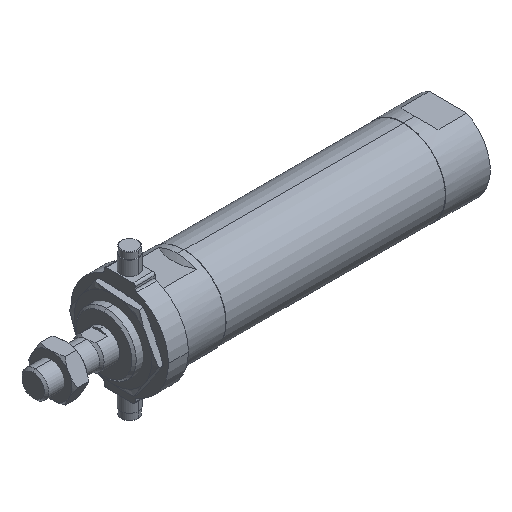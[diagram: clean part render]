
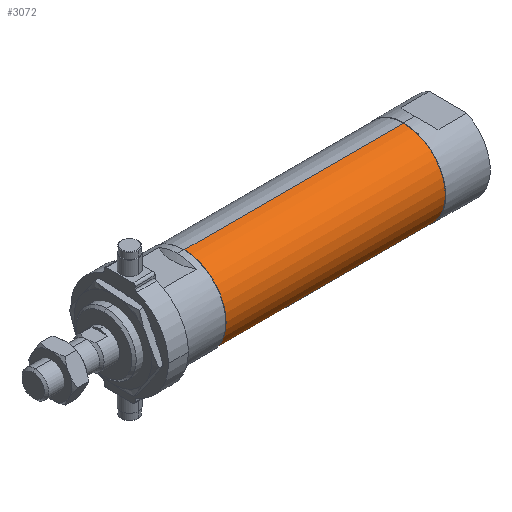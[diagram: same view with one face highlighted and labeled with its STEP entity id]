
A CAD part, isometric view. The second image highlights one B-rep face of the part: STEP entity #3072.
In plain terms, the highlighted cylindrical face has radius 18.8 mm (diameter 37.6 mm), a partial arc.
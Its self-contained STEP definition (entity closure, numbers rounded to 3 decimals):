
#87 = DIRECTION ( 'NONE',  ( 0., 0., 1. ) ) ;
#217 = CARTESIAN_POINT ( 'NONE',  ( -1.784, 0., -18.8 ) ) ;
#281 = DIRECTION ( 'NONE',  ( -1., 0., 0. ) ) ;
#348 = ORIENTED_EDGE ( 'NONE', *, *, #2057, .F. ) ;
#374 = LINE ( 'NONE', #217, #1056 ) ;
#434 = VECTOR ( 'NONE', #3372, 1000. ) ;
#439 = VERTEX_POINT ( 'NONE', #2227 ) ;
#607 = VERTEX_POINT ( 'NONE', #762 ) ;
#657 = LINE ( 'NONE', #1044, #434 ) ;
#676 = DIRECTION ( 'NONE',  ( 0., 0., 1. ) ) ;
#758 = CYLINDRICAL_SURFACE ( 'NONE', #2412, 18.8 ) ;
#762 = CARTESIAN_POINT ( 'NONE',  ( 68., 0., -18.8 ) ) ;
#768 = CARTESIAN_POINT ( 'NONE',  ( 167., 0., 18.8 ) ) ;
#1040 = VERTEX_POINT ( 'NONE', #3490 ) ;
#1044 = CARTESIAN_POINT ( 'NONE',  ( -1.784, 0., 18.8 ) ) ;
#1056 = VECTOR ( 'NONE', #1306, 1000. ) ;
#1153 = CARTESIAN_POINT ( 'NONE',  ( -1.784, 0., 0. ) ) ;
#1306 = DIRECTION ( 'NONE',  ( -1., 0., 0. ) ) ;
#1413 = EDGE_CURVE ( 'NONE', #439, #3079, #3151, .T. ) ;
#1638 = EDGE_CURVE ( 'NONE', #3079, #1040, #657, .T. ) ;
#1654 = ORIENTED_EDGE ( 'NONE', *, *, #1413, .T. ) ;
#1926 = FACE_OUTER_BOUND ( 'NONE', #4094, .T. ) ;
#1955 = DIRECTION ( 'NONE',  ( -1., 0., 0. ) ) ;
#2057 = EDGE_CURVE ( 'NONE', #439, #607, #374, .T. ) ;
#2227 = CARTESIAN_POINT ( 'NONE',  ( 167., 0., -18.8 ) ) ;
#2412 = AXIS2_PLACEMENT_3D ( 'NONE', #1153, #3913, #87 ) ;
#2949 = ORIENTED_EDGE ( 'NONE', *, *, #3857, .F. ) ;
#2956 = AXIS2_PLACEMENT_3D ( 'NONE', #4012, #1955, #3652 ) ;
#3072 = ADVANCED_FACE ( 'NONE', ( #1926 ), #758, .T. ) ;
#3079 = VERTEX_POINT ( 'NONE', #768 ) ;
#3151 = CIRCLE ( 'NONE', #2956, 18.8 ) ;
#3191 = CIRCLE ( 'NONE', #4182, 18.8 ) ;
#3372 = DIRECTION ( 'NONE',  ( -1., 0., 0. ) ) ;
#3490 = CARTESIAN_POINT ( 'NONE',  ( 68., 0., 18.8 ) ) ;
#3652 = DIRECTION ( 'NONE',  ( 0., 0., 1. ) ) ;
#3857 = EDGE_CURVE ( 'NONE', #607, #1040, #3191, .T. ) ;
#3913 = DIRECTION ( 'NONE',  ( -1., 0., 0. ) ) ;
#4012 = CARTESIAN_POINT ( 'NONE',  ( 167., 0., 0. ) ) ;
#4094 = EDGE_LOOP ( 'NONE', ( #348, #1654, #4311, #2949 ) ) ;
#4182 = AXIS2_PLACEMENT_3D ( 'NONE', #4456, #281, #676 ) ;
#4311 = ORIENTED_EDGE ( 'NONE', *, *, #1638, .T. ) ;
#4456 = CARTESIAN_POINT ( 'NONE',  ( 68., 0., 0. ) ) ;
